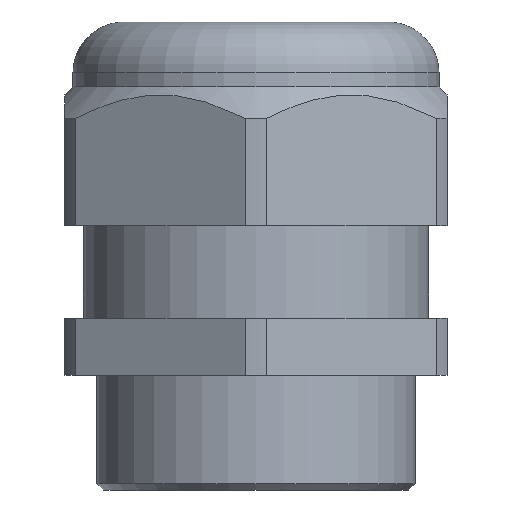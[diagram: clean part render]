
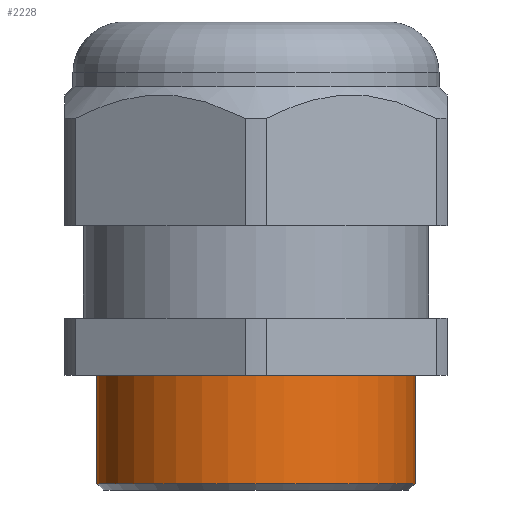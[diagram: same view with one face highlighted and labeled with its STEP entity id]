
A CAD part, front view. The second image highlights one B-rep face of the part: STEP entity #2228.
In plain terms, the highlighted cylindrical face has radius 25 mm (diameter 50 mm), a partial arc.
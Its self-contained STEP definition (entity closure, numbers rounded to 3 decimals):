
#45 = CARTESIAN_POINT ( 'NONE',  ( -25., 0., 18. ) ) ;
#54 = CARTESIAN_POINT ( 'NONE',  ( 25., 0., 18. ) ) ;
#62 = CARTESIAN_POINT ( 'NONE',  ( -25., 0., 1. ) ) ;
#81 = CARTESIAN_POINT ( 'NONE',  ( 25., 0., 1. ) ) ;
#82 = LINE ( 'NONE', #83, #84 ) ;
#83 = CARTESIAN_POINT ( 'NONE',  ( 25., 0., 0. ) ) ;
#84 = VECTOR ( 'NONE', #85, 1000. ) ;
#85 = DIRECTION ( 'NONE',  ( 0., 0., -1. ) ) ;
#467 = EDGE_CURVE ( 'NONE', #486, #472, #2091, .T. ) ;
#472 = VERTEX_POINT ( 'NONE', #62 ) ;
#477 = EDGE_CURVE ( 'NONE', #493, #478, #82, .T. ) ;
#478 = VERTEX_POINT ( 'NONE', #81 ) ;
#486 = VERTEX_POINT ( 'NONE', #45 ) ;
#493 = VERTEX_POINT ( 'NONE', #54 ) ;
#716 = FACE_OUTER_BOUND ( 'NONE', #2305, .T. ) ;
#777 = DIRECTION ( 'NONE',  ( -1., 0., 0. ) ) ;
#778 = DIRECTION ( 'NONE',  ( 0., 0., -1. ) ) ;
#779 = CARTESIAN_POINT ( 'NONE',  ( 0., 0., 0. ) ) ;
#780 = AXIS2_PLACEMENT_3D ( 'NONE', #779, #778, #777 ) ;
#781 = CYLINDRICAL_SURFACE ( 'NONE', #780, 25. ) ;
#789 = DIRECTION ( 'NONE',  ( -1., 0., 0. ) ) ;
#790 = DIRECTION ( 'NONE',  ( 0., 0., -1. ) ) ;
#791 = CARTESIAN_POINT ( 'NONE',  ( 0., 0., 18. ) ) ;
#792 = AXIS2_PLACEMENT_3D ( 'NONE', #791, #790, #789 ) ;
#793 = CIRCLE ( 'NONE', #792, 25. ) ;
#816 = AXIS2_PLACEMENT_3D ( 'NONE', #880, #879, #878 ) ;
#817 = CIRCLE ( 'NONE', #816, 25. ) ;
#878 = DIRECTION ( 'NONE',  ( -1., 0., 0. ) ) ;
#879 = DIRECTION ( 'NONE',  ( 0., 0., -1. ) ) ;
#880 = CARTESIAN_POINT ( 'NONE',  ( 0., 0., 1. ) ) ;
#2091 = LINE ( 'NONE', #2123, #2122 ) ;
#2121 = DIRECTION ( 'NONE',  ( 0., 0., -1. ) ) ;
#2122 = VECTOR ( 'NONE', #2121, 1000. ) ;
#2123 = CARTESIAN_POINT ( 'NONE',  ( -25., 0., 0. ) ) ;
#2228 = ADVANCED_FACE ( 'NONE', ( #716 ), #781, .T. ) ;
#2246 = ORIENTED_EDGE ( 'NONE', *, *, #467, .T. ) ;
#2254 = EDGE_CURVE ( 'NONE', #493, #486, #793, .T. ) ;
#2275 = EDGE_CURVE ( 'NONE', #478, #472, #817, .T. ) ;
#2276 = ORIENTED_EDGE ( 'NONE', *, *, #477, .F. ) ;
#2289 = ORIENTED_EDGE ( 'NONE', *, *, #2275, .F. ) ;
#2304 = ORIENTED_EDGE ( 'NONE', *, *, #2254, .T. ) ;
#2305 = EDGE_LOOP ( 'NONE', ( #2276, #2304, #2246, #2289 ) ) ;
